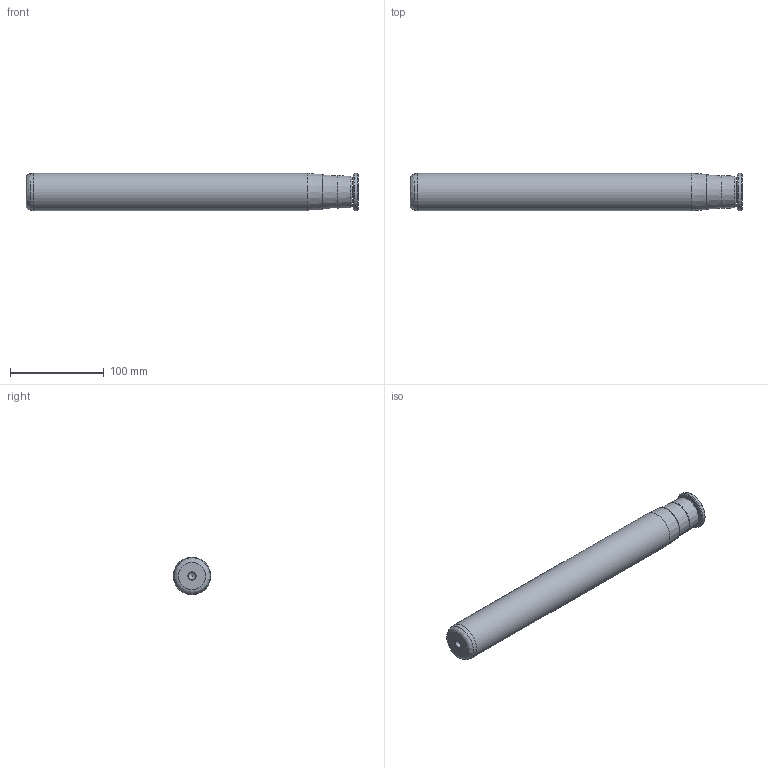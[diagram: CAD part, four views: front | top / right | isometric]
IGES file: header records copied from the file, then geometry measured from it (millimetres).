
Global section: file name: C5A40315.ipt; native system: Autodesk Inventor 2021; preprocessor: unknown; author: SM; date: 20211217.123147; units: millimetre
Bounding box: 354 x 40 x 40 mm (x, y, z)
Volume: 430159.9 mm3; surface area: 49903.9 mm2
Topology: 3 solids, 3 shells, 61 faces, 149 edges, 96 vertices
Faces by surface type: plane 32, revolution 13, cone 9, cylinder 4, bspline 3
Full cylindrical faces by diameter (mm): 8 x1, 15.879 x1, 40 x2
